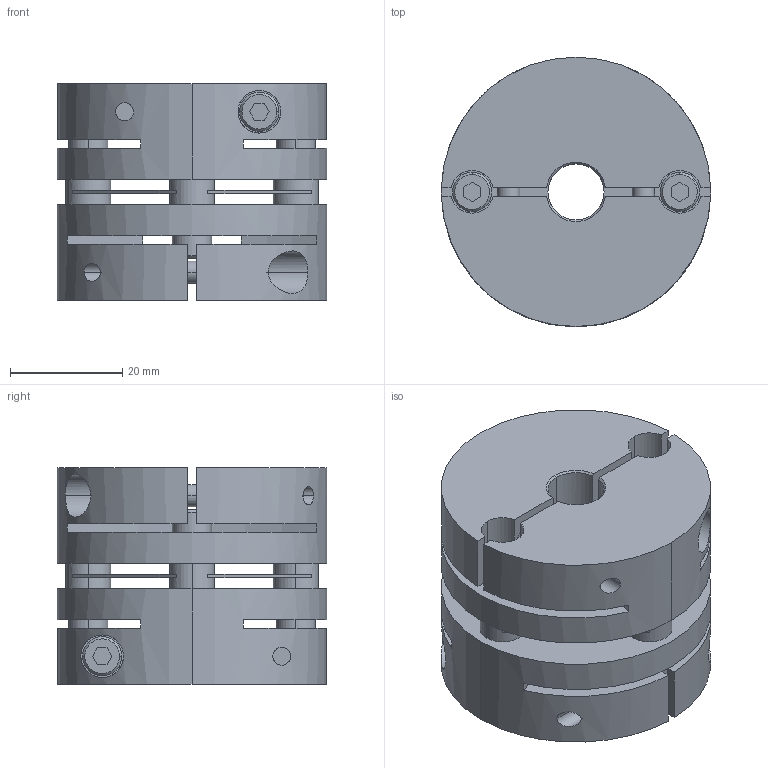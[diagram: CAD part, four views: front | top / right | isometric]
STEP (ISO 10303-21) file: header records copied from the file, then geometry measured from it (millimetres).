
FILE_DESCRIPTION((''),'2;1');
FILE_NAME('LAS-48C-10×20.stp','2015-10-14T15:40:40',(''),(''),'AutoCAD STEP 2000i','AutoCAD 2000i',', , ');
FILE_SCHEMA(('CONFIG_CONTROL_DESIGN'));
Length unit declared in the file: millimetre
Products named in the file (6): LAS-48C-12×19; 忣兜1; LA-4802-D19; LA-4802-D12-1; LA-4802-D12; LAS48-ITA
Assembly tree (5 placements, depth 2):
  LAS-48C-12×19
    忣兜1
    LA-4802-D19
    LA-4802-D12-1
    LA-4802-D12
    LAS48-ITA
Bounding box: 48 x 48 x 38.6 mm (x, y, z)
Volume: 49423 mm3; surface area: 22245.9 mm2
Topology: 1 solids, 1 shells, 224 faces, 600 edges, 392 vertices
Faces by surface type: plane 112, cylinder 84, cone 28
Entity records: 7841 total; most frequent: CARTESIAN_POINT 1878, DIRECTION 1256, ORIENTED_EDGE 1200, EDGE_CURVE 600, AXIS2_PLACEMENT_3D 458, VERTEX_POINT 392, VECTOR 340, LINE 340
